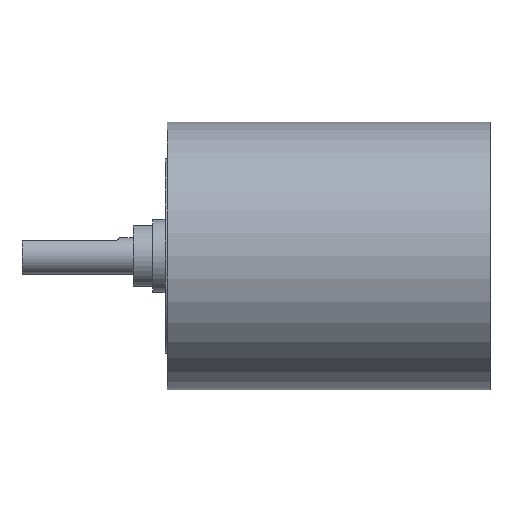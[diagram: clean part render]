
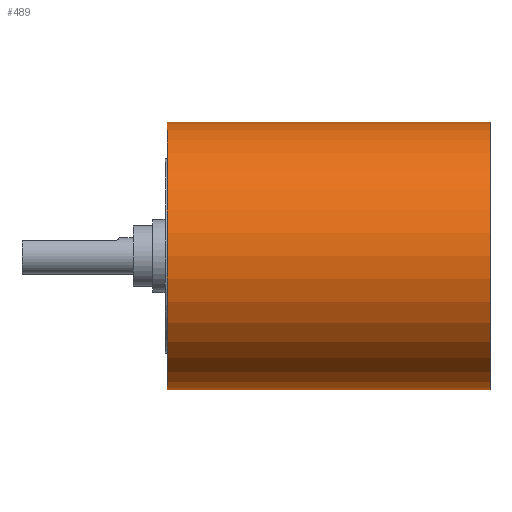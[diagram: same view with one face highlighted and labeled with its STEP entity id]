
A CAD part, top view. The second image highlights one B-rep face of the part: STEP entity #489.
In plain terms, the highlighted cylindrical face has radius 11 mm (diameter 22 mm), a partial arc.
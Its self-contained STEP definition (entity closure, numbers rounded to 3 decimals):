
#82=DIRECTION('',(-1.,0.,0.));
#83=VECTOR('',#82,26.5);
#84=CARTESIAN_POINT('',(1.7,11.,0.));
#85=LINE('',#84,#83);
#86=CARTESIAN_POINT('',(1.7,0.,0.));
#87=DIRECTION('',(1.,0.,0.));
#88=DIRECTION('',(0.,1.,0.));
#89=AXIS2_PLACEMENT_3D('',#86,#87,#88);
#91=DIRECTION('',(-1.,0.,0.));
#92=VECTOR('',#91,26.5);
#93=CARTESIAN_POINT('',(1.7,-11.,0.));
#94=LINE('',#93,#92);
#95=CARTESIAN_POINT('',(-24.8,0.,0.));
#96=DIRECTION('',(1.,0.,0.));
#97=DIRECTION('',(0.,1.,0.));
#98=AXIS2_PLACEMENT_3D('',#95,#96,#97);
#420=CARTESIAN_POINT('',(-24.8,11.,0.));
#421=CARTESIAN_POINT('',(-24.8,-11.,0.));
#422=VERTEX_POINT('',#420);
#423=VERTEX_POINT('',#421);
#440=CARTESIAN_POINT('',(1.7,11.,0.));
#441=CARTESIAN_POINT('',(1.7,-11.,0.));
#442=VERTEX_POINT('',#440);
#443=VERTEX_POINT('',#441);
#477=CARTESIAN_POINT('',(1.838,0.,0.));
#478=DIRECTION('',(-1.,0.,0.));
#479=DIRECTION('',(0.,1.,0.));
#480=AXIS2_PLACEMENT_3D('',#477,#478,#479);
#481=CYLINDRICAL_SURFACE('',#480,11.);
#482=ORIENTED_EDGE('',*,*,#467,.F.);
#483=ORIENTED_EDGE('',*,*,#451,.T.);
#484=ORIENTED_EDGE('',*,*,#471,.T.);
#486=ORIENTED_EDGE('',*,*,#485,.F.);
#487=EDGE_LOOP('',(#482,#483,#484,#486));
#488=FACE_OUTER_BOUND('',#487,.F.);
#489=ADVANCED_FACE('',(#488),#481,.T.);
#90=CIRCLE('',#89,11.);
#99=CIRCLE('',#98,11.);
#451=EDGE_CURVE('',#442,#443,#90,.T.);
#467=EDGE_CURVE('',#442,#422,#85,.T.);
#471=EDGE_CURVE('',#443,#423,#94,.T.);
#485=EDGE_CURVE('',#422,#423,#99,.T.);
